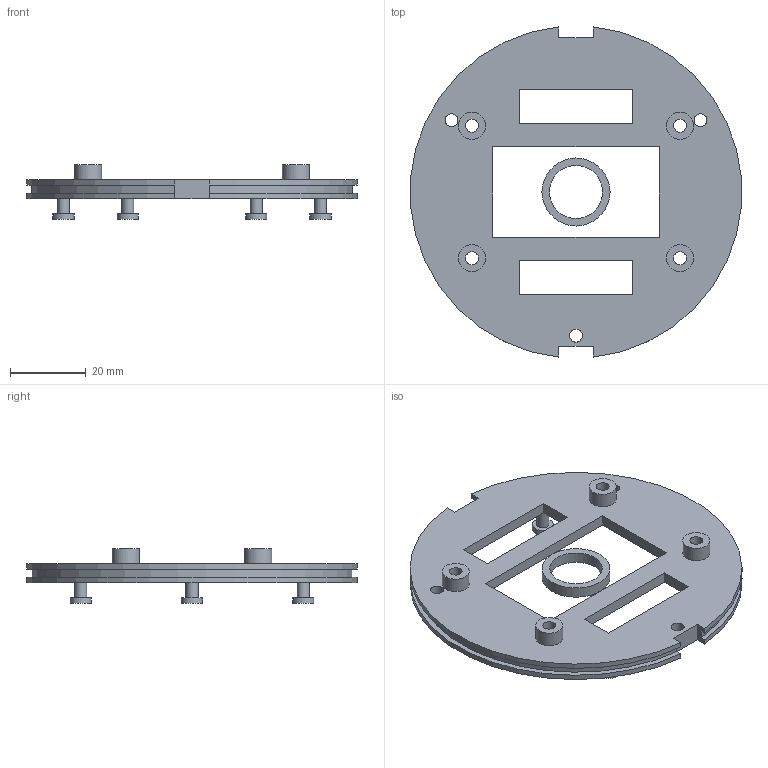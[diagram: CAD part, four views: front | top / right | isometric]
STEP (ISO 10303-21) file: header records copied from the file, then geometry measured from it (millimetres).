
FILE_DESCRIPTION(('Open CASCADE Model'),'2;1');
FILE_NAME('Open CASCADE Shape Model','2026-11-11T19:28:18',('Author'),( 'Open CASCADE'),'Open CASCADE STEP processor 7.9','Open CASCADE 7.9' ,'Unknown');
FILE_SCHEMA(('AUTOMOTIVE_DESIGN { 1 0 10303 214 1 1 1 1 }'));
Length unit declared in the file: millimetre
Products named in the file (3): Open CASCADE STEP translator 7.9 7; Open CASCADE STEP translator 7.9 7.1; Open CASCADE STEP translator 7.9 7.2
Assembly tree (2 placements, depth 2):
  Open CASCADE STEP translator 7.9 7
    Open CASCADE STEP translator 7.9 7.1
    Open CASCADE STEP translator 7.9 7.2
Bounding box: 87.47 x 87.34 x 14.5 mm (x, y, z)
Volume: 16251.3 mm3; surface area: 14237.8 mm2
Topology: 2 solids, 2 shells, 105 faces, 249 edges, 166 vertices
Faces by surface type: plane 71, cylinder 34
Full cylindrical faces by diameter (mm): 3.2 x6, 3.4 x7, 5.6 x6, 7.2 x4, 14 x1, 18 x1
Entity records: 6464 total; most frequent: CARTESIAN_POINT 1225, DIRECTION 1003, LINE 599, VECTOR 599, ORIENTED_EDGE 498, PCURVE 498, DEFINITIONAL_REPRESENTATION 498, EDGE_CURVE 249
